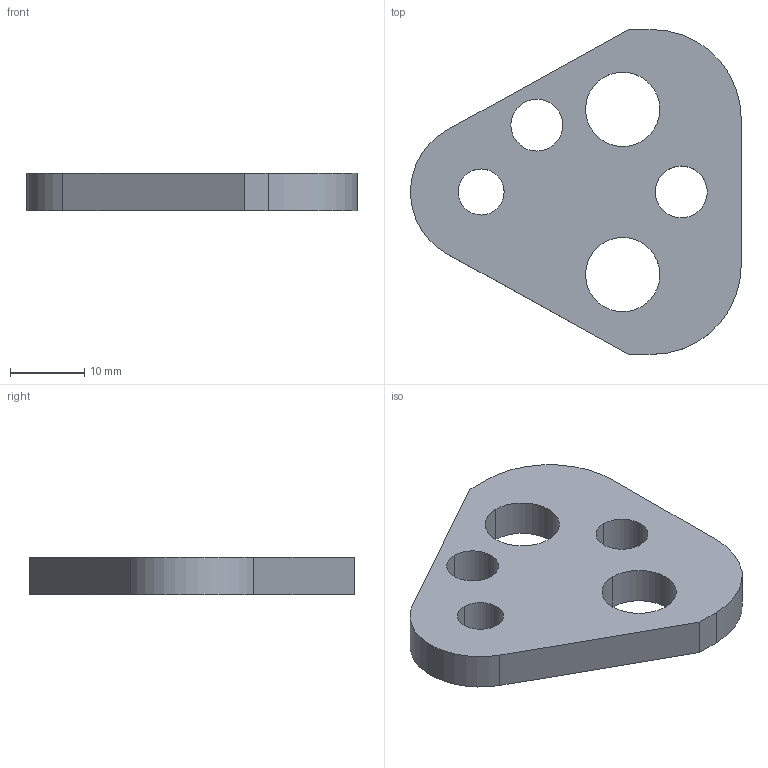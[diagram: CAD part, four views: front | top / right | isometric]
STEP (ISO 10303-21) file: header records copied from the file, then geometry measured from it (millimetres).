
FILE_DESCRIPTION(/* description */ (''),/* implementation_level */ '2;1');
FILE_NAME(/* name */ '3d_crnbp10_03639_r00.stp',/* time_stamp */ '2011-01-10T14:16:19+09:00',/* author */ ('MISUMI'),/* organization */ (''),/* preprocessor_version */ 'ST-DEVELOPER v11',/* originating_system */ 'UGS - NX 5.0',/* authorisation */ '');
FILE_SCHEMA (('CONFIG_CONTROL_DESIGN'));
Length unit declared in the file: millimetre
Products named in the file (1): 3d_crnbp10_03639_r00
Bounding box: 44.47 x 43.7 x 5 mm (x, y, z)
Volume: 5658.7 mm3; surface area: 3594.2 mm2
Topology: 1 solids, 1 shells, 20 faces, 54 edges, 36 vertices
Faces by surface type: cylinder 13, plane 7
Entity records: 750 total; most frequent: DIRECTION 122, CARTESIAN_POINT 111, ORIENTED_EDGE 108, EDGE_CURVE 54, AXIS2_PLACEMENT_3D 47, VERTEX_POINT 36, EDGE_LOOP 30, LINE 28
